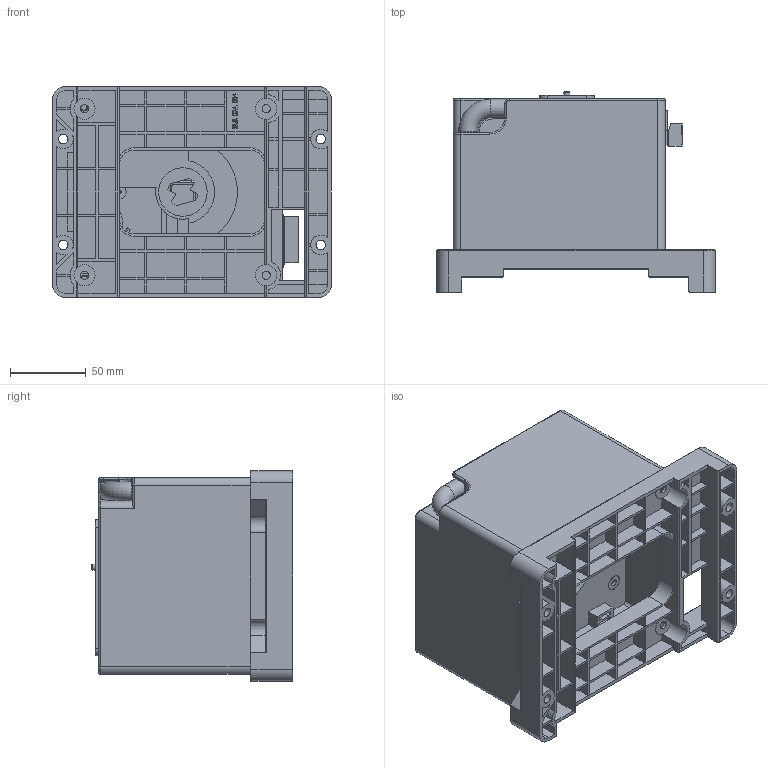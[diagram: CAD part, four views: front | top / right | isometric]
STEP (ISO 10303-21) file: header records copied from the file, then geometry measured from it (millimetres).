
FILE_DESCRIPTION(/* description */ (''),/* implementation_level */ '2;1');
FILE_NAME(/* name */ 'MOT80GM_3D DATA.stp',/* time_stamp */ '2017-12-26T17:28:22+09:00',/* author */ (''),/* organization */ (''),/* preprocessor_version */ 'ST-DEVELOPER v15',/* originating_system */ 'SIEMENS PLM Software NX 9.0',/* authorisation */ '');
FILE_SCHEMA (('AP203_CONFIGURATION_CONTROLLED_3D_DESIGN_OF_MECHANICAL_PARTS_AND_ASSEMBLIES_MIM_LF { 1 0 10303 403 2 1 2}'));
Products named in the file (9): 400GM__WL8.024.239.2_id195_x_t; CD4B-80GM_id190_x_t; WL8.261.44B-POM_id185_x_t; ____ _______id180_x_t; 6__________5.08_id175_x_t; 310____.WL8.024.238.2_id170_x_t; 80GM____WL8.024.664_id11_x_t; _____________id6_x_t; CD4B-80GM_x_t
Assembly tree (8 placements, depth 2):
  CD4B-80GM_x_t
    _____________id6_x_t
    80GM____WL8.024.664_id11_x_t
    310____.WL8.024.238.2_id170_x_t
    6__________5.08_id175_x_t
    ____ _______id180_x_t
    WL8.261.44B-POM_id185_x_t
    CD4B-80GM_id190_x_t
    400GM__WL8.024.239.2_id195_x_t
Bounding box: 184 x 132.8 x 139 mm (x, y, z)
Volume: 419265.7 mm3; surface area: 349948.4 mm2
Topology: 8 solids, 8 shells, 1977 faces, 5454 edges, 3571 vertices
Faces by surface type: plane 1483, cylinder 295, extrusion 137, torus 22, cone 20, bspline 11, sphere 9
Full cylindrical faces by diameter (mm): 1.9 x2, 2.2 x2, 2.4 x2, 2.8 x6, 3.3 x1, 3.5 x1, 3.7 x6, 4 x1, 4.2 x4, 5 x1, 5.5 x4, 6.2 x4, 7 x3, 8 x2, 9 x3, 10 x5, 12 x6, 32 x1, 36 x1
Entity records: 69284 total; most frequent: CARTESIAN_POINT 18313, ORIENTED_EDGE 10700, DIRECTION 9541, EDGE_CURVE 5350, VECTOR 4451, LINE 4314, VERTEX_POINT 3542, AXIS2_PLACEMENT_3D 2545
